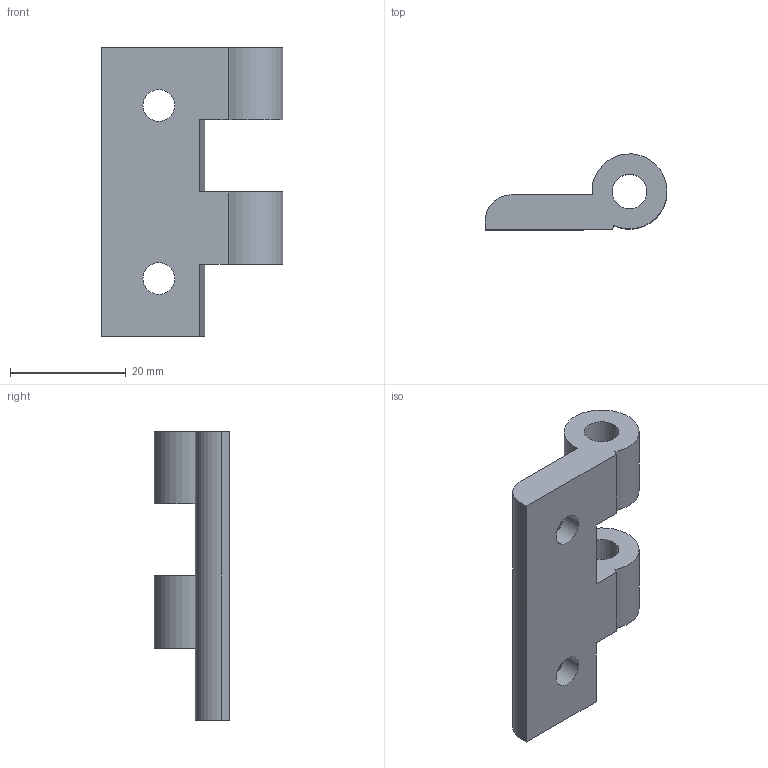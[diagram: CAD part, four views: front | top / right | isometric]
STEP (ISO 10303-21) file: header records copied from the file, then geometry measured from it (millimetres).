
FILE_DESCRIPTION (( 'STEP AP214' ), '1' );
FILE_NAME ('F70123 Charnière inox.step', '2024-12-03T16:18:21', ( '' ), ( '' ), 'SwSTEP 2.0', 'SolidWorks 2023', '' );
FILE_SCHEMA (( 'AUTOMOTIVE_DESIGN' ));
Length unit declared in the file: millimetre
Products named in the file (1): F70123 Charnière inox
Bounding box: 31.48 x 13.08 x 50 mm (x, y, z)
Volume: 7593 mm3; surface area: 4339.7 mm2
Topology: 1 solids, 1 shells, 21 faces, 58 edges, 39 vertices
Faces by surface type: plane 12, cylinder 7, cone 2
Full cylindrical faces by diameter (mm): 5.5 x2, 6 x2
Entity records: 658 total; most frequent: DIRECTION 109, CARTESIAN_POINT 107, ORIENTED_EDGE 98, EDGE_CURVE 49, AXIS2_PLACEMENT_3D 38, VERTEX_POINT 36, EDGE_LOOP 35, LINE 33
